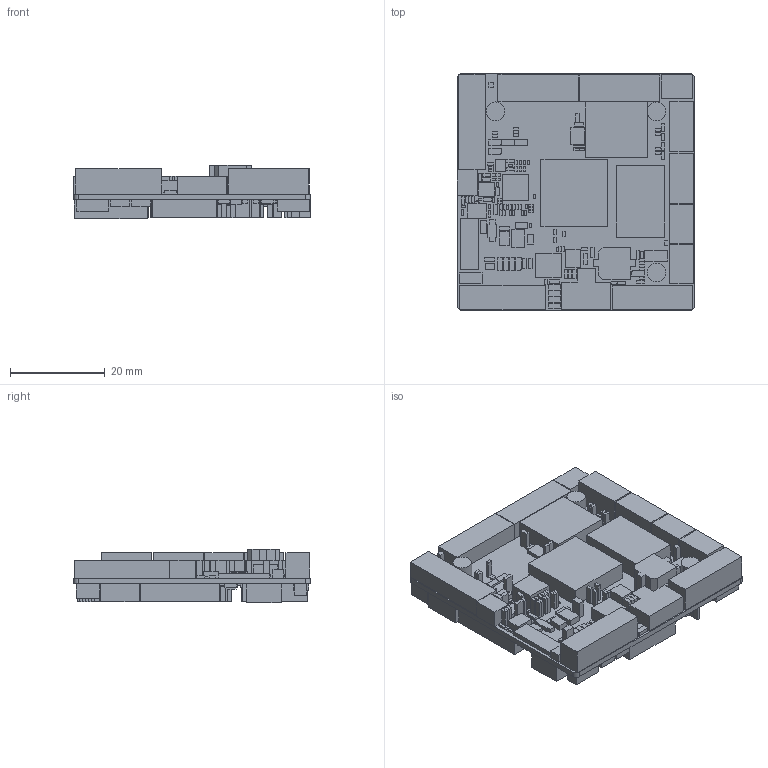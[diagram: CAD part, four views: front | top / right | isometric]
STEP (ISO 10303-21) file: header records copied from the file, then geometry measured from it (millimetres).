
FILE_DESCRIPTION(/* description */ ('PCB Design'),/* implementation_level */ '2;1');
FILE_NAME(/* name */ 'IPC50PRO-RV1126B-20250716R',/* time_stamp */ '2025-08-14T22:03:19+08:00',/* author */ ('caoweiwei'),/* organization */ (''),/* preprocessor_version */ 'ST-DEVELOPER v15',/* originating_system */ 'allegro_16.6-2015S112',/* authorisation */ '');
FILE_SCHEMA (('AUTOMOTIVE_DESIGN'));
Length unit declared in the file: inch
Products named in the file (64): IPC50PRO-RV1126B-20250716R; BOARD; COMPONENTS; STFM24-40-280; SW-SMD_TS-1086E-AC03526; QFN_13_2M5X3M0; IND-SMD_L5_4-W5_2_FXL05XX; LED0402; MSOP8_3R00X3R00X1R00; SOD_523; SMT_1MM_2_OS; QFN28_P40_4R00X4R00X0R80_T; FPC_0M5_14_OS; HOLE_C2R00_C3R50; MARK1_0; TP_1R00; SMAF; SMBF; SR0805; SR0201; IND_201610; IND_252010; L0603; FUSE1812; SOD_123; DFN1006-2LO-N; SC0201; SOD_323O; C6X6; SC0402; C1206; SC0805; SC0603; SOT_23; IPEX_4MM_3MM; SMT_2MM_2_LS; CRY4_2R50X2R00X0R55; SMT_1M25_2_LS; SMT_1MM_3_LS; SOT_23_5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
Assembly tree (424 placements, depth 3):
  IPC50PRO-RV1126B-20250716R
    BOARD
    COMPONENTS
      STFM24-40-280
      SW-SMD_TS-1086E-AC03526
      QFN_13_2M5X3M0
      IND-SMD_L5_4-W5_2_FXL05XX
      LED0402
      MSOP8_3R00X3R00X1R00
      SOD_523  x2
      SMT_1MM_2_OS
      QFN28_P40_4R00X4R00X0R80_T
      FPC_0M5_14_OS
      HOLE_C2R00_C3R50  x4
      MARK1_0  x4
      TP_1R00
      SMAF
      SMBF  x2
      SR0805  x2
      SR0201  x18
      IND_201610  x7
      IND_252010
      L0603  x3
      FUSE1812
      SOD_123
      DFN1006-2LO-N  x8
      SC0201  x12
      SOD_323O  x4
      C6X6
      SC0402  x6
      C1206  x2
      SC0805  x2
      SC0603  x8
      SOT_23
      IPEX_4MM_3MM  x2
      SMT_2MM_2_LS
      CRY4_2R50X2R00X0R55
      SMT_1M25_2_LS  x2
      SMT_1MM_3_LS
      SOT_23_5  x4
      SOT_23_6
      SMT_1M25_4_LS  x2
      SOP-8_150MIL
      FPC_0M5_6_OS
      SON10_2R50X1R00X0R50  x2
      SMT_1M25_9_LS
      SMT_1M25_10_LS
      TF9_TFP09-2-12B
      FPC_0M5_24_OS  x2
      FPC_0M5_30_OS  x2
      CON31F_FP03_51GF
      QFN40_5R00X5R00X0R90_T-MINI
      SKI-WB800D80S-QFN44
      BGA153_13RX11R5X0R9_2L
      CRY4_2R50X2R00X0R80
      BGA200_15R00X10R00X0R90
      C0402_BGA  x9
      BGA491_14R0X14R0X1R00
      CRY2_3R20X1R50X0R90
      R0201  x87
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Bounding box: 50.01 x 50 x 11.26 mm (x, y, z)
Surface area: 24006.4 mm2 (no closed solid volume)
Topology: 0 solids, 423 shells, 3312 faces, 7824 edges, 4916 vertices
Faces by surface type: plane 2584, cylinder 728
Entity records: 15902 total; most frequent: DIRECTION 2066, ORIENTED_EDGE 1848, AXIS2_PLACEMENT_3D 1332, CARTESIAN_POINT 1247, EDGE_CURVE 989, VECTOR 937, LINE 937, VERTEX_POINT 746
